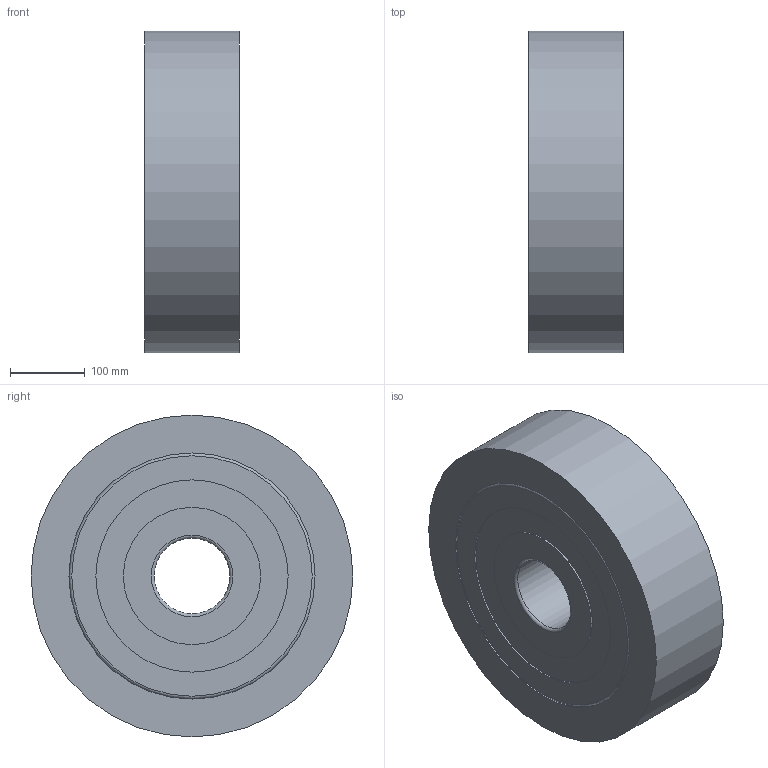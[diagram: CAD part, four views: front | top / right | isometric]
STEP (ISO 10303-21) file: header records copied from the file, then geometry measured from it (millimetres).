
FILE_DESCRIPTION((''),'1');
FILE_NAME('H:/図庫/国内ﾕﾆｯﾄ/ｶﾀﾛｸﾞ/ｺﾞﾑ直巻/ホームページ用ＣＡＤ図面/update用/3', '2017-07-14T08:56:16',(''), (''), 'KCM Version 1.1.1442.0', 'Kubotek KeyCreator', '');
FILE_SCHEMA(('AUTOMOTIVE_DESIGN'));
Length unit declared in the file: inch
Bounding box: 127 x 431.8 x 431.8 mm (x, y, z)
Surface area: 507905.5 mm2 (no closed solid volume)
Topology: 0 solids, 20 shells, 20 faces, 68 edges, 56 vertices
Faces by surface type: cylinder 8, plane 8, torus 4
Full cylindrical faces by diameter (mm): 101.6 x1, 184.15 x2, 257.81 x2, 330.2 x2, 431.8 x1
Entity records: 790 total; most frequent: DIRECTION 154, CARTESIAN_POINT 137, ORIENTED_EDGE 80, AXIS2_PLACEMENT_3D 73, EDGE_CURVE 68, VERTEX_POINT 56, CIRCLE 52, EDGE_LOOP 28
